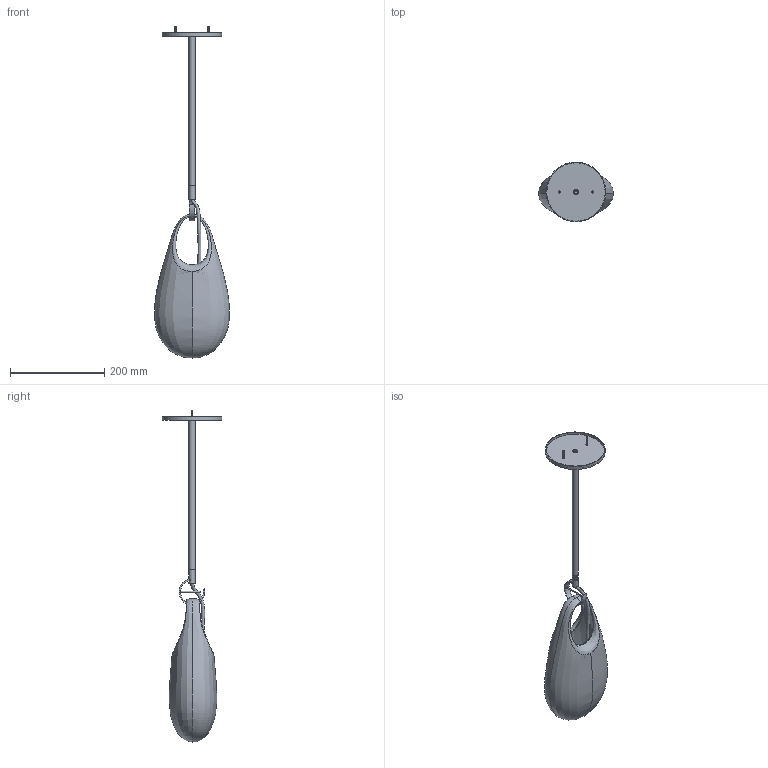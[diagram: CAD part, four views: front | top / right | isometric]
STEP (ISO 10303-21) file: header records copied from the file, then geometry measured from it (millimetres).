
FILE_DESCRIPTION(/* description */ (''),/* implementation_level */ '2;1');
FILE_NAME(/* name */ 'SkLO_Hold_12_Pendant_LT264_3D',/* time_stamp */ '2024-10-22T00:13:21+02:00',/* author */ (''),/* organization */ (''),/* preprocessor_version */ 'ST-DEVELOPER v16.5',/* originating_system */ 'Rhino 7.34',/* authorisation */ '');
FILE_SCHEMA (('CONFIG_CONTROL_DESIGN'));
Length unit declared in the file: millimetre
Products named in the file (1): Document
Bounding box: 159 x 126.88 x 705.53 mm (x, y, z)
Volume: 407807.1 mm3; surface area: 257491.1 mm2
Topology: 13 solids, 15 shells, 636 faces, 1685 edges, 1081 vertices
Faces by surface type: plane 292, cylinder 209, bspline 135
Full cylindrical faces by diameter (mm): 2.532 x5, 3 x11, 4 x54, 4.5 x2, 5 x1, 6 x1, 8 x3, 8.784 x10, 8.918 x13, 10 x13, 10.2 x2, 12 x1, 13 x2, 26 x1, 124 x1, 127 x1
Entity records: 144582 total; most frequent: CARTESIAN_POINT 133671, ORIENTED_EDGE 3272, EDGE_CURVE 1656, B_SPLINE_CURVE_WITH_KNOTS 1251, VERTEX_POINT 1079, EDGE_LOOP 687, ADVANCED_FACE 636, FACE_OUTER_BOUND 636
